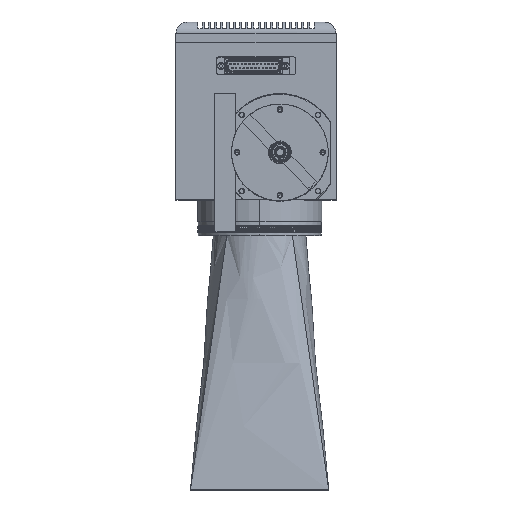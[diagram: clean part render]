
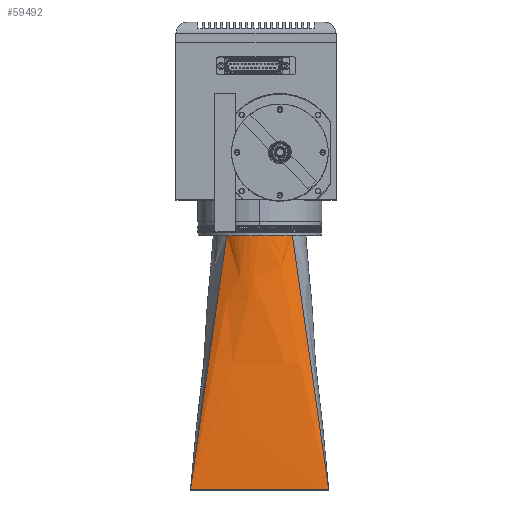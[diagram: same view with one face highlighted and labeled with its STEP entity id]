
A CAD part, top view. The second image highlights one B-rep face of the part: STEP entity #59492.
In plain terms, the highlighted free-form (B-spline) face has degree [3, 1] with [18, 2] control points.
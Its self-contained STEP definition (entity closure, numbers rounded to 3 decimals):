
#528 = CARTESIAN_POINT ( 'NONE',  ( -21.088, -35.6, -23.812 ) ) ;
#529 = CARTESIAN_POINT ( 'NONE',  ( 26.288, -35.6, -23.812 ) ) ;
#533 = CARTESIAN_POINT ( 'NONE',  ( 52.6, -219.5, 2.5 ) ) ;
#534 = CARTESIAN_POINT ( 'NONE',  ( -47.4, -219.5, 2.5 ) ) ;
#8944 = B_SPLINE_CURVE_WITH_KNOTS ( 'NONE', 3,
 ( #46469, #46470, #46471, #46472, #46473, #46474, #46475, #46476, #46477, #46478, #46479, #46480, #46481, #46482, #46483, #46484, #46485, #46486 ),
 .UNSPECIFIED., .F., .F.,
 ( 4, 2, 2, 2, 2, 2, 2, 2, 4 ),
 ( 0., 0.125, 0.25, 0.375, 0.5, 0.625, 0.75, 0.875, 1. ),
 .UNSPECIFIED. ) ;
#8947 = B_SPLINE_CURVE_WITH_KNOTS ( 'NONE', 3,
 ( #46397, #46398, #46399, #46400, #46401, #46402, #46403, #46404, #46405, #46406, #46407, #46408, #46409, #46410, #46411, #46412, #46413, #46414 ),
 .UNSPECIFIED., .F., .F.,
 ( 4, 2, 2, 2, 2, 2, 2, 2, 4 ),
 ( 0., 0.125, 0.25, 0.375, 0.5, 0.625, 0.75, 0.875, 1. ),
 .UNSPECIFIED. ) ;
#12068 = FACE_OUTER_BOUND ( 'NONE', #72154, .T. ) ;
#16361 = CARTESIAN_POINT ( 'NONE',  ( 26.288, -35.6, -23.812 ) ) ;
#16362 = CARTESIAN_POINT ( 'NONE',  ( 52.6, -219.5, 2.5 ) ) ;
#16363 = CARTESIAN_POINT ( 'NONE',  ( 24.892, -35.6, -22.416 ) ) ;
#17384 = CARTESIAN_POINT ( 'NONE',  ( 48.433, -219.5, 2.5 ) ) ;
#17385 = CARTESIAN_POINT ( 'NONE',  ( 23.32, -35.6, -21.092 ) ) ;
#17386 = CARTESIAN_POINT ( 'NONE',  ( 44.267, -219.5, 2.5 ) ) ;
#17387 = CARTESIAN_POINT ( 'NONE',  ( 19.844, -35.6, -18.702 ) ) ;
#17388 = CARTESIAN_POINT ( 'NONE',  ( 35.933, -219.5, 2.5 ) ) ;
#17389 = CARTESIAN_POINT ( 'NONE',  ( 17.941, -35.6, -17.636 ) ) ;
#17390 = CARTESIAN_POINT ( 'NONE',  ( 31.767, -219.5, 2.5 ) ) ;
#17391 = CARTESIAN_POINT ( 'NONE',  ( 13.87, -35.6, -15.875 ) ) ;
#17392 = CARTESIAN_POINT ( 'NONE',  ( 23.433, -219.5, 2.5 ) ) ;
#17393 = CARTESIAN_POINT ( 'NONE',  ( 11.704, -35.6, -15.18 ) ) ;
#17394 = CARTESIAN_POINT ( 'NONE',  ( 19.267, -219.5, 2.5 ) ) ;
#17395 = CARTESIAN_POINT ( 'NONE',  ( 7.225, -35.6, -14.242 ) ) ;
#17396 = CARTESIAN_POINT ( 'NONE',  ( 10.933, -219.5, 2.5 ) ) ;
#17397 = CARTESIAN_POINT ( 'NONE',  ( 4.913, -35.6, -14. ) ) ;
#17398 = CARTESIAN_POINT ( 'NONE',  ( 6.767, -219.5, 2.5 ) ) ;
#17399 = CARTESIAN_POINT ( 'NONE',  ( 0.287, -35.6, -14. ) ) ;
#17400 = CARTESIAN_POINT ( 'NONE',  ( -1.567, -219.5, 2.5 ) ) ;
#17401 = CARTESIAN_POINT ( 'NONE',  ( -2.025, -35.6, -14.242 ) ) ;
#17402 = CARTESIAN_POINT ( 'NONE',  ( -5.733, -219.5, 2.5 ) ) ;
#17403 = CARTESIAN_POINT ( 'NONE',  ( -6.504, -35.6, -15.18 ) ) ;
#17404 = CARTESIAN_POINT ( 'NONE',  ( -14.067, -219.5, 2.5 ) ) ;
#17405 = CARTESIAN_POINT ( 'NONE',  ( -8.67, -35.6, -15.875 ) ) ;
#17406 = CARTESIAN_POINT ( 'NONE',  ( -18.233, -219.5, 2.5 ) ) ;
#17407 = CARTESIAN_POINT ( 'NONE',  ( -12.741, -35.6, -17.636 ) ) ;
#17408 = CARTESIAN_POINT ( 'NONE',  ( -26.567, -219.5, 2.5 ) ) ;
#17409 = CARTESIAN_POINT ( 'NONE',  ( -14.644, -35.6, -18.702 ) ) ;
#17410 = CARTESIAN_POINT ( 'NONE',  ( -30.733, -219.5, 2.5 ) ) ;
#17411 = CARTESIAN_POINT ( 'NONE',  ( -18.12, -35.6, -21.092 ) ) ;
#17412 = CARTESIAN_POINT ( 'NONE',  ( -39.067, -219.5, 2.5 ) ) ;
#17413 = CARTESIAN_POINT ( 'NONE',  ( -19.692, -35.6, -22.416 ) ) ;
#17414 = CARTESIAN_POINT ( 'NONE',  ( -43.233, -219.5, 2.5 ) ) ;
#17415 = CARTESIAN_POINT ( 'NONE',  ( -21.088, -35.6, -23.812 ) ) ;
#17416 = CARTESIAN_POINT ( 'NONE',  ( -47.4, -219.5, 2.5 ) ) ;
#18881 = EDGE_CURVE ( 'NONE', #24609, #24608, #8947, .T. ) ;
#18885 = EDGE_CURVE ( 'NONE', #24604, #24603, #8944, .T. ) ;
#18888 = EDGE_CURVE ( 'NONE', #24603, #24609, #33123, .T. ) ;
#18889 = EDGE_CURVE ( 'NONE', #24608, #24604, #33124, .T. ) ;
#23635 = VECTOR ( 'NONE', #46526, 1000. ) ;
#23638 = VECTOR ( 'NONE', #46524, 1000. ) ;
#24603 = VERTEX_POINT ( 'NONE', #528 ) ;
#24604 = VERTEX_POINT ( 'NONE', #529 ) ;
#24608 = VERTEX_POINT ( 'NONE', #533 ) ;
#24609 = VERTEX_POINT ( 'NONE', #534 ) ;
#33123 = LINE ( 'NONE', #46523, #23638 ) ;
#33124 = LINE ( 'NONE', #46525, #23635 ) ;
#42130 = ORIENTED_EDGE ( 'NONE', *, *, #18885, .T. ) ;
#42131 = ORIENTED_EDGE ( 'NONE', *, *, #18881, .T. ) ;
#42132 = ORIENTED_EDGE ( 'NONE', *, *, #18888, .T. ) ;
#42133 = ORIENTED_EDGE ( 'NONE', *, *, #18889, .T. ) ;
#46397 = CARTESIAN_POINT ( 'NONE',  ( -47.4, -219.5, 2.5 ) ) ;
#46398 = CARTESIAN_POINT ( 'NONE',  ( -43.233, -219.5, 2.5 ) ) ;
#46399 = CARTESIAN_POINT ( 'NONE',  ( -39.067, -219.5, 2.5 ) ) ;
#46400 = CARTESIAN_POINT ( 'NONE',  ( -30.733, -219.5, 2.5 ) ) ;
#46401 = CARTESIAN_POINT ( 'NONE',  ( -26.567, -219.5, 2.5 ) ) ;
#46402 = CARTESIAN_POINT ( 'NONE',  ( -18.233, -219.5, 2.5 ) ) ;
#46403 = CARTESIAN_POINT ( 'NONE',  ( -14.067, -219.5, 2.5 ) ) ;
#46404 = CARTESIAN_POINT ( 'NONE',  ( -5.733, -219.5, 2.5 ) ) ;
#46405 = CARTESIAN_POINT ( 'NONE',  ( -1.567, -219.5, 2.5 ) ) ;
#46406 = CARTESIAN_POINT ( 'NONE',  ( 6.767, -219.5, 2.5 ) ) ;
#46407 = CARTESIAN_POINT ( 'NONE',  ( 10.933, -219.5, 2.5 ) ) ;
#46408 = CARTESIAN_POINT ( 'NONE',  ( 19.267, -219.5, 2.5 ) ) ;
#46409 = CARTESIAN_POINT ( 'NONE',  ( 23.433, -219.5, 2.5 ) ) ;
#46410 = CARTESIAN_POINT ( 'NONE',  ( 31.767, -219.5, 2.5 ) ) ;
#46411 = CARTESIAN_POINT ( 'NONE',  ( 35.933, -219.5, 2.5 ) ) ;
#46412 = CARTESIAN_POINT ( 'NONE',  ( 44.267, -219.5, 2.5 ) ) ;
#46413 = CARTESIAN_POINT ( 'NONE',  ( 48.433, -219.5, 2.5 ) ) ;
#46414 = CARTESIAN_POINT ( 'NONE',  ( 52.6, -219.5, 2.5 ) ) ;
#46469 = CARTESIAN_POINT ( 'NONE',  ( 26.288, -35.6, -23.812 ) ) ;
#46470 = CARTESIAN_POINT ( 'NONE',  ( 24.892, -35.6, -22.416 ) ) ;
#46471 = CARTESIAN_POINT ( 'NONE',  ( 23.32, -35.6, -21.092 ) ) ;
#46472 = CARTESIAN_POINT ( 'NONE',  ( 19.844, -35.6, -18.702 ) ) ;
#46473 = CARTESIAN_POINT ( 'NONE',  ( 17.941, -35.6, -17.636 ) ) ;
#46474 = CARTESIAN_POINT ( 'NONE',  ( 13.87, -35.6, -15.875 ) ) ;
#46475 = CARTESIAN_POINT ( 'NONE',  ( 11.704, -35.6, -15.18 ) ) ;
#46476 = CARTESIAN_POINT ( 'NONE',  ( 7.225, -35.6, -14.242 ) ) ;
#46477 = CARTESIAN_POINT ( 'NONE',  ( 4.913, -35.6, -14. ) ) ;
#46478 = CARTESIAN_POINT ( 'NONE',  ( 0.287, -35.6, -14. ) ) ;
#46479 = CARTESIAN_POINT ( 'NONE',  ( -2.025, -35.6, -14.242 ) ) ;
#46480 = CARTESIAN_POINT ( 'NONE',  ( -6.504, -35.6, -15.18 ) ) ;
#46481 = CARTESIAN_POINT ( 'NONE',  ( -8.67, -35.6, -15.875 ) ) ;
#46482 = CARTESIAN_POINT ( 'NONE',  ( -12.741, -35.6, -17.636 ) ) ;
#46483 = CARTESIAN_POINT ( 'NONE',  ( -14.644, -35.6, -18.702 ) ) ;
#46484 = CARTESIAN_POINT ( 'NONE',  ( -18.12, -35.6, -21.092 ) ) ;
#46485 = CARTESIAN_POINT ( 'NONE',  ( -19.692, -35.6, -22.416 ) ) ;
#46486 = CARTESIAN_POINT ( 'NONE',  ( -21.088, -35.6, -23.812 ) ) ;
#46523 = CARTESIAN_POINT ( 'NONE',  ( -34.244, -127.55, -10.656 ) ) ;
#46524 = DIRECTION ( 'NONE',  ( -0.14, -0.98, 0.14 ) ) ;
#46525 = CARTESIAN_POINT ( 'NONE',  ( 39.444, -127.55, -10.656 ) ) ;
#46526 = DIRECTION ( 'NONE',  ( -0.14, 0.98, -0.14 ) ) ;
#59492 = ADVANCED_FACE ( 'NONE', ( #12068 ), #60835, .T. ) ;
#60835 = B_SPLINE_SURFACE_WITH_KNOTS ( 'NONE', 3, 1, ( 
 ( #16361, #16362 ),
 ( #16363, #17384 ),
 ( #17385, #17386 ),
 ( #17387, #17388 ),
 ( #17389, #17390 ),
 ( #17391, #17392 ),
 ( #17393, #17394 ),
 ( #17395, #17396 ),
 ( #17397, #17398 ),
 ( #17399, #17400 ),
 ( #17401, #17402 ),
 ( #17403, #17404 ),
 ( #17405, #17406 ),
 ( #17407, #17408 ),
 ( #17409, #17410 ),
 ( #17411, #17412 ),
 ( #17413, #17414 ),
 ( #17415, #17416 ) ),
 .UNSPECIFIED., .F., .F., .F.,
 ( 4, 2, 2, 2, 2, 2, 2, 2, 4 ),
 ( 2, 2 ),
 ( 0., 0.125, 0.25, 0.375, 0.5, 0.625, 0.75, 0.875, 1. ),
 ( 0., 1. ),
 .UNSPECIFIED. ) ;
#72154 = EDGE_LOOP ( 'NONE', ( #42130, #42132, #42131, #42133 ) ) ;
